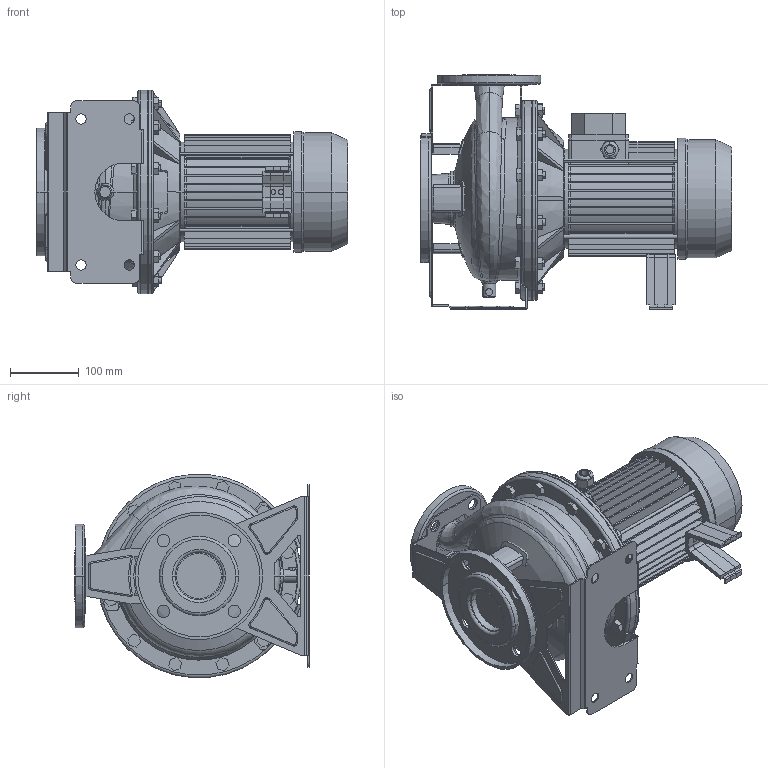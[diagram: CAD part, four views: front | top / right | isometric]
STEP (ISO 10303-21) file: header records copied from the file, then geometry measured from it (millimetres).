
FILE_DESCRIPTION((''),'2;1');
FILE_NAME('3M4_40-200_1_1_IE2_ASM','2012-03-14T',('Rosa'),('"Ebara Pumps Europe +39.444.706811"'),'PRO/ENGINEER BY PARAMETRIC TECHNOLOGY CORPORATION, 2009360','PRO/ENGINEER BY PARAMETRIC TECHNOLOGY CORPORATION, 2009360','');
FILE_SCHEMA(('AUTOMOTIVE_DESIGN { 1 0 10303 214 1 1 1 1 }'));
Length unit declared in the file: millimetre
Products named in the file (11): CORPO_40-200; ASP_40-200; FLANGIA_DIN_65; MAND_40-200; FLANGIA_DIN_40; BASE_3M_40-200; CORPO_SALDATO_40-200_ASM; SUPPORTO_3M_230_90; MEC_90X120_IE2; SOSTEGNO_72006; 3M4_40-200_1_1_IE2_ASM
Assembly tree (11 placements, depth 3):
  3M4_40-200_1_1_IE2_ASM
    CORPO_SALDATO_40-200_ASM
      CORPO_40-200
      ASP_40-200
      FLANGIA_DIN_65
      MAND_40-200
      FLANGIA_DIN_40
      BASE_3M_40-200
    SUPPORTO_3M_230_90
    MEC_90X120_IE2
    SOSTEGNO_72006  x2
Bounding box: 452 x 340 x 295.13 mm (x, y, z)
Volume: 9926028.2 mm3; surface area: 1202327.9 mm2
Topology: 13 solids, 13 shells, 1143 faces, 2915 edges, 1866 vertices
Faces by surface type: plane 635, cylinder 318, cone 90, torus 60, bspline 34, sphere 6
Entity records: 48096 total; most frequent: CARTESIAN_POINT 9525, DIRECTION 5750, ORIENTED_EDGE 5662, PRESENTATION_STYLE_ASSIGNMENT 2843, STYLED_ITEM 2843, CURVE_STYLE 2831, EDGE_CURVE 2831, AXIS2_PLACEMENT_3D 2061
